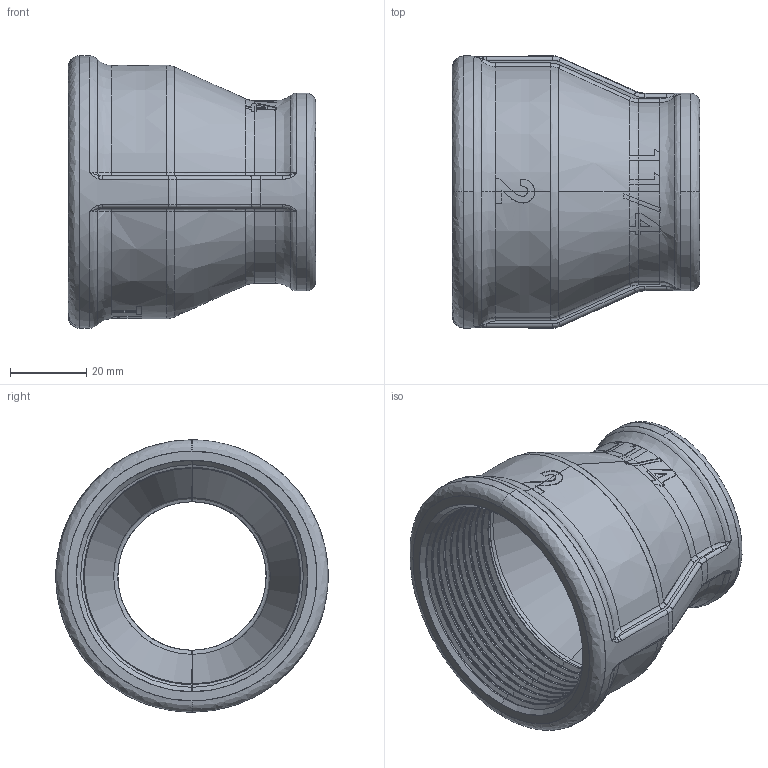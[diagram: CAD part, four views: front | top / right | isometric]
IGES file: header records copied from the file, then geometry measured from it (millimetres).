
Start section: SolidWorks IGES file using analytic representation for surfaces
Global section: file name: C:\Users\Joel Rosa\Desktop\Tubulação\12-32-OK\12-32-046.IGS; native system: SolidWorks 2011; preprocessor: SolidWorks 2011; author: Joel Rosa; date: 121209.022106; units: millimetre
Bounding box: 65 x 71.6 x 71.6 mm (x, y, z)
Surface area: 29884.4 mm2 (no closed solid volume)
Topology: 0 solids, 0 shells, 464 faces, 3609 edges, 3607 vertices
Faces by surface type: bspline 322, revolution 142
